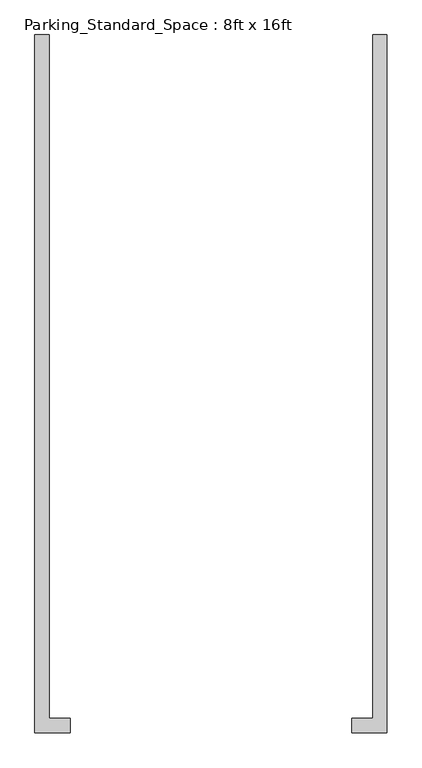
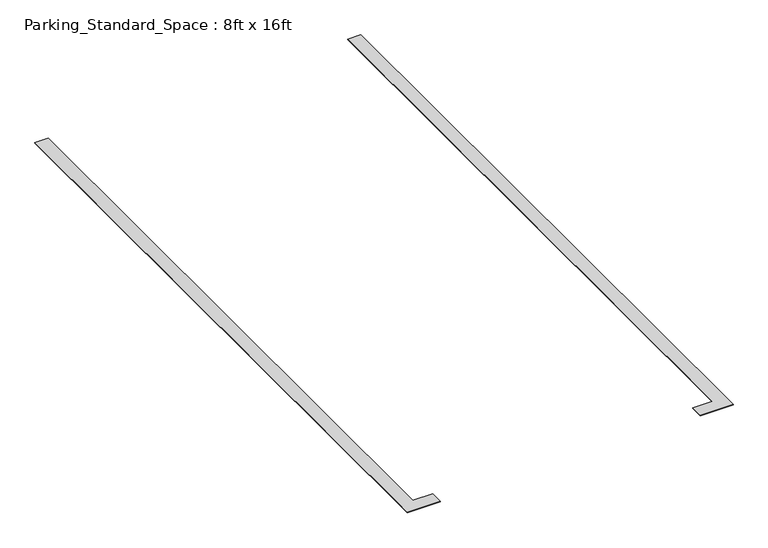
"""IFC4 building model written with IfcOpenShell, lengths in millimetres: proxy geometry, Parking_Standard_Space : 8ft x 16ft."""

from ifc_helpers import new_model, si_unit, origin, origin_with_axes, place, context, project, spatial, polyline, outline, extrude, source, transform, mapped, element, save


def parking_standard_space_8ft_x_16ft_4757c3b1(model_context):
    return source(origin(), model_context, "Body", "SweptSolid", [
        extrude(outline(polyline([(2337.6, 0.0), (2437.6, 0.0), (2437.6, -4926.8), (2187.6, -4926.8), (2187.6, -4826.8), (2337.6, -4826.8), (2337.6, 0.0)])), origin_with_axes(), (0.0, 0.0, 1.0), 3.175),
        extrude(outline(polyline([(-50.0, 0.0), (50.0, 0.0), (50.0, -4826.8), (200.0, -4826.8), (200.0, -4926.8), (-50.0, -4926.8), (-50.0, 0.0)])), origin_with_axes(), (0.0, 0.0, 1.0), 3.175),
    ])


if __name__ == "__main__":
    model = new_model("IFC4")
    model_context = context("Model", 3, world=origin())
    ifc_project = project(units=[si_unit("LENGTHUNIT", "METRE", prefix="MILLI")], contexts=[model_context])
    site = spatial("IfcSite", under=ifc_project)
    building = spatial("IfcBuilding", under=site)
    placement = place(None, origin())
    parking_standard_space_8ft_x_16ft_shape = parking_standard_space_8ft_x_16ft_4757c3b1(model_context)
    element("IfcBuildingElementProxy", 1, Name="Parking_Standard_Space : 8ft x 16ft", ObjectType="Parking_Standard_Space : 8ft x 16ft", at=placement, inside=building, context=model_context, shape_type="MappedRepresentation", body=[
        mapped(parking_standard_space_8ft_x_16ft_shape, transform((0.0, 0.0, 0.0), x_axis=(1.0, 0.0, 0.0), y_axis=(0.0, 1.0, 0.0), z_axis=(0.0, 0.0, 1.0))),
    ])
    save(model, "model.ifc")
